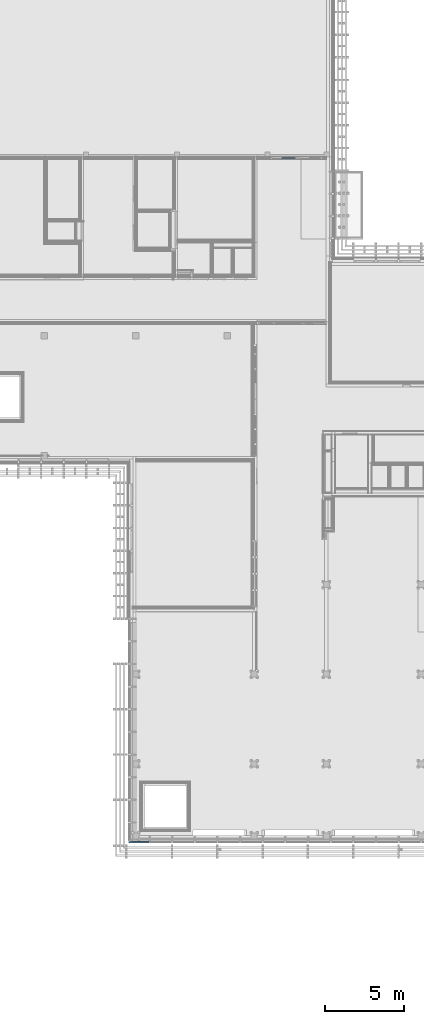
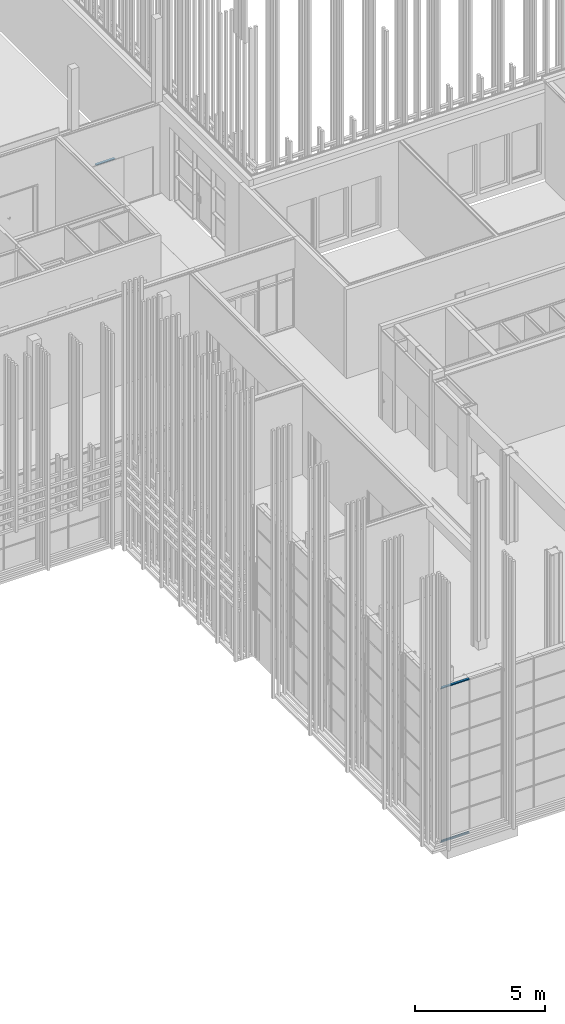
# One storey, part 49 of 260: 3 members, 2 elements without a shape of their own.
"""IFC2X3 building model written with IfcOpenShell, lengths in millimetres."""

from ifc_helpers import new_model, entity, si_unit, converted_unit, derived_unit, money_unit, direction, frame, origin_with_axes, place, context, subcontext, project, spatial, faceted_brep, source, transform, mapped, material, type_object, element, aggregate, save


model = new_model("IFC2X3")

# Units and contexts
model_context = context("Model", 3, precision=0.01, world=origin_with_axes(), true_north=direction((0.0, 1.0)))
body_context = subcontext(model_context, "Body", "Model", "MODEL_VIEW")
ifc_project = project(units=[si_unit("LENGTHUNIT", "METRE", prefix="MILLI"), si_unit("AREAUNIT", "SQUARE_METRE"), si_unit("VOLUMEUNIT", "CUBIC_METRE"), converted_unit("PLANEANGLEUNIT", "DEGREE", entity("IfcPlaneAngleMeasure", 0.0174532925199), si_unit("PLANEANGLEUNIT", "RADIAN"), dimensions=[0, 0, 0, 0, 0, 0, 0]), money_unit("EUR"), converted_unit("TIMEUNIT", "Year", entity("IfcTimeMeasure", 31556926.0), si_unit("TIMEUNIT", "SECOND"), dimensions=[0, 0, 1, 0, 0, 0, 0]), si_unit("MASSUNIT", "GRAM", prefix="KILO"), si_unit("THERMODYNAMICTEMPERATUREUNIT", "DEGREE_CELSIUS"), si_unit("LUMINOUSINTENSITYUNIT", "LUMEN"), si_unit("ENERGYUNIT", "JOULE", prefix="MEGA"), derived_unit("THERMALCONDUCTANCEUNIT", [(si_unit("POWERUNIT", "WATT"), 1), (si_unit("LENGTHUNIT", "METRE"), -1), (si_unit("THERMODYNAMICTEMPERATUREUNIT", "KELVIN"), -1)]), derived_unit("SPECIFICHEATCAPACITYUNIT", [(si_unit("ENERGYUNIT", "JOULE"), 1), (si_unit("MASSUNIT", "GRAM", prefix="KILO"), -1), (si_unit("THERMODYNAMICTEMPERATUREUNIT", "KELVIN"), -1)]), derived_unit("MASSDENSITYUNIT", [(si_unit("MASSUNIT", "GRAM", prefix="KILO"), 1), (si_unit("VOLUMEUNIT", "CUBIC_METRE"), -1)])], contexts=[model_context])

# Site, building, storey
site_placement = place(None, origin_with_axes())
site = spatial("IfcSite", under=ifc_project, at=site_placement, Name="Kolde pst 67a", CompositionType="ELEMENT")
building_placement = place(site_placement, origin_with_axes())
building = spatial("IfcBuilding", under=site, at=building_placement, Name="Riigigümnaasium", CompositionType="ELEMENT")
storey_placement = place(building_placement, origin_with_axes())
storey = spatial("IfcBuildingStorey", under=building, at=storey_placement, Name="1. korrus", CompositionType="ELEMENT", Elevation=0.0)

# Curtain wall, members
curtain_wall_type = type_object("IfcCurtainWallType", Name="Curtain Wall Type", PredefinedType="NOTDEFINED")
curtain_wall_1_placement = place(storey_placement, frame((47829.9854655, 8727.77020058, -0.000749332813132), z_axis=(0.0, 0.0, 1.0), x_axis=(1.0, 0.0, 0.0)))
curtain_wall_1 = element("IfcCurtainWall", 1, at=curtain_wall_1_placement, inside=storey, type_object=curtain_wall_type, Name="KLAASFASSAAD")
ifc_material_1 = material(Name="_METALL - alumiinium")
member_type = type_object("IfcMemberType", Name="Boundary Frame 50 x 100", PredefinedType="MEMBER")
member_1_placement = place(curtain_wall_1_placement, frame((-22742.4150628, 15102.4894543, 0.000285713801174), z_axis=(-0.999999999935, 1.1410815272e-05, 0.0), x_axis=(0.0, 0.0, 1.0)))
member_1 = element("IfcMember", 2, at=member_1_placement, type_object=member_type, material=ifc_material_1, Name="RF RAAM SERV-605", ObjectType="MEMBER", context=body_context, shape_type="Brep", body=[
    faceted_brep([(30.0, 16.5, 1241.06915358), (50.0, 16.5, 1241.06915358), (50.0, 60.0, 1197.56931728), (0.0, 60.0, 1197.56931728), (0.0, -40.0, 1297.56894096), (50.0, -40.0, 1297.56894096), (50.0, -16.5, 1274.0690294), (30.0, -16.5, 1274.0690294), (30.0, 16.5, 0.0), (50.0, 16.5, 0.0), (50.0, 60.0, 0.0), (0.0, 60.0, 0.0), (0.0, -40.0, 0.0), (50.0, -40.0, 0.0), (50.0, -16.5, 0.0), (30.0, -16.5, 0.0)], [[[0, 1, 2, 3, 4, 5, 6, 7]], [[0, 8, 9, 1]], [[9, 10, 2, 1]], [[10, 11, 3, 2]], [[11, 12, 4, 3]], [[12, 13, 5, 4]], [[6, 5, 13, 14]], [[14, 15, 7, 6]], [[7, 15, 8, 0]], [[8, 15, 14, 13, 12, 11, 10, 9]]]),
])
member_2_placement = place(curtain_wall_1_placement, frame((-23999.9841542, 15102.5038042, 7259.99992735), z_axis=(0.999999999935, -1.1410815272e-05, 0.0), x_axis=(0.0, 0.0, -1.0)))
member_2 = element("IfcMember", 3, at=member_2_placement, type_object=member_type, material=ifc_material_1, Name="RF RAAM SERV-612", ObjectType="MEMBER", context=body_context, shape_type="Brep", body=[
    faceted_brep([(30.0, 16.5, 1257.56909149), (50.0, 16.5, 1257.56909149), (50.0, 60.0, 1257.56909149), (0.0, 60.0, 1257.56909149), (0.0, -40.0, 1257.56909149), (50.0, -40.0, 1257.56909149), (50.0, -16.5, 1257.56909149), (30.0, -16.5, 1257.56909149), (30.0, 16.5, 16.4999379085), (50.0, 16.5, 16.4999379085), (50.0, 60.0, 59.9997742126), (0.0, 60.0, 59.9997742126), (0.0, -40.0, -39.9998494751), (50.0, -40.0, -39.9998494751), (50.0, -16.5, -16.4999379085), (30.0, -16.5, -16.4999379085)], [[[0, 1, 2, 3, 4, 5, 6, 7]], [[0, 8, 9, 1]], [[9, 10, 2, 1]], [[2, 10, 11, 3]], [[3, 11, 12, 4]], [[4, 12, 13, 5]], [[6, 5, 13, 14]], [[14, 15, 7, 6]], [[7, 15, 8, 0]], [[8, 15, 14, 13, 12, 11, 10, 9]]]),
])
aggregate(curtain_wall_1, [member_1, member_2])

# Curtain wall, member
curtain_wall_2_placement = place(storey_placement, frame((33792.224013, 66989.9967931, 0.0), z_axis=(0.0, 0.0, 1.0), x_axis=(1.0, 0.0, 0.0)))
curtain_wall_2 = element("IfcCurtainWall", 4, at=curtain_wall_2_placement, inside=storey, type_object=curtain_wall_type, Name="KLAASSEIN")
ifc_material_2 = material(Name="_GENEERILINE MATERJAL")
shared_shape = source(origin_with_axes(), body_context, "Body", "Brep", [
    faceted_brep([(-50.0, -10.0, 0.0), (-50.0, -100.0, 0.0), (-50.0, -100.0, 850.0), (-50.0, -10.0, 850.0), (-25.0, -10.0, 0.0), (-25.0, 0.0, 0.0), (0.0, 0.0, 0.0), (0.0, -100.0, 0.0), (0.0, -100.0, 850.0), (-25.0, -10.0, 850.0), (0.0, 0.0, 850.0), (-25.0, 0.0, 850.0)], [[[0, 1, 2, 3]], [[4, 5, 6, 7, 1, 0]], [[1, 7, 8, 2]], [[9, 3, 2, 8, 10, 11]], [[9, 4, 0, 3]], [[5, 4, 9, 11]], [[11, 10, 6, 5]], [[7, 6, 10, 8]]]),
])
member_3_placement = place(curtain_wall_2_placement, frame((-363.555526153, 0.0, 2300.0), z_axis=(1.0, 0.0, 0.0), x_axis=(0.0, 0.0, 1.0)))
member_3 = element("IfcMember", 5, at=member_3_placement, type_object=member_type, material=ifc_material_2, Name="RF RAAM SERV-139", ObjectType="MEMBER", context=body_context, shape_type="MappedRepresentation", body=[
    mapped(shared_shape, transform((0.0, 0.0, 0.0))),
])
aggregate(curtain_wall_2, [member_3])

save(model, "model.ifc")
